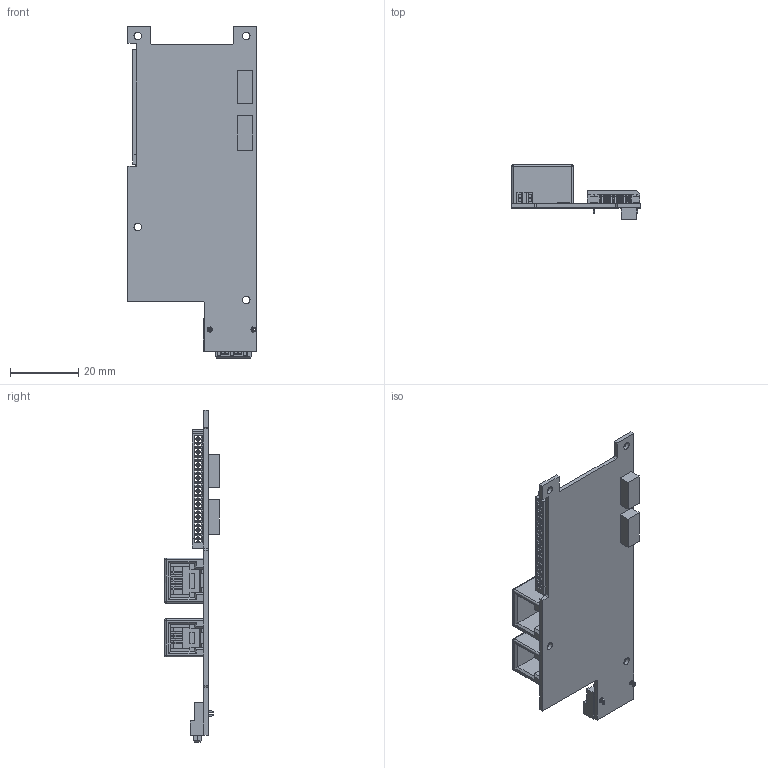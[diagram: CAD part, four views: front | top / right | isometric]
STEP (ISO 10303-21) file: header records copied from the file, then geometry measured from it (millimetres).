
FILE_DESCRIPTION(/* description */ ('VariCAD 2008 1.04 AP-203'),/* implementation_level */ '2;1');
FILE_NAME(/* name */ '0353-00-02',/* time_stamp */ '2008-06-02T00:17:36-06:00',/* author */ (''),/* organization */ (''),/* preprocessor_version */ 'ST-DEVELOPER v10',/* originating_system */ 'VariCAD 2008 1.04; kernel version (20071230)',/* authorisation */ '');
FILE_SCHEMA (('CONFIG_CONTROL_DESIGN'));
Products named in the file (1): Part
Bounding box: 37.59 x 16 x 97.12 mm (x, y, z)
Volume: 6775.2 mm3; surface area: 11586.7 mm2
Topology: 1 solids, 1 shells, 2843 faces, 7869 edges, 4982 vertices
Faces by surface type: plane 2535, cylinder 300, sphere 8
Entity records: 88995 total; most frequent: CARTESIAN_POINT 15824, ORIENTED_EDGE 15738, DIRECTION 14145, EDGE_CURVE 7869, LINE 7251, VECTOR 7251, VERTEX_POINT 4982, AXIS2_PLACEMENT_3D 3447
